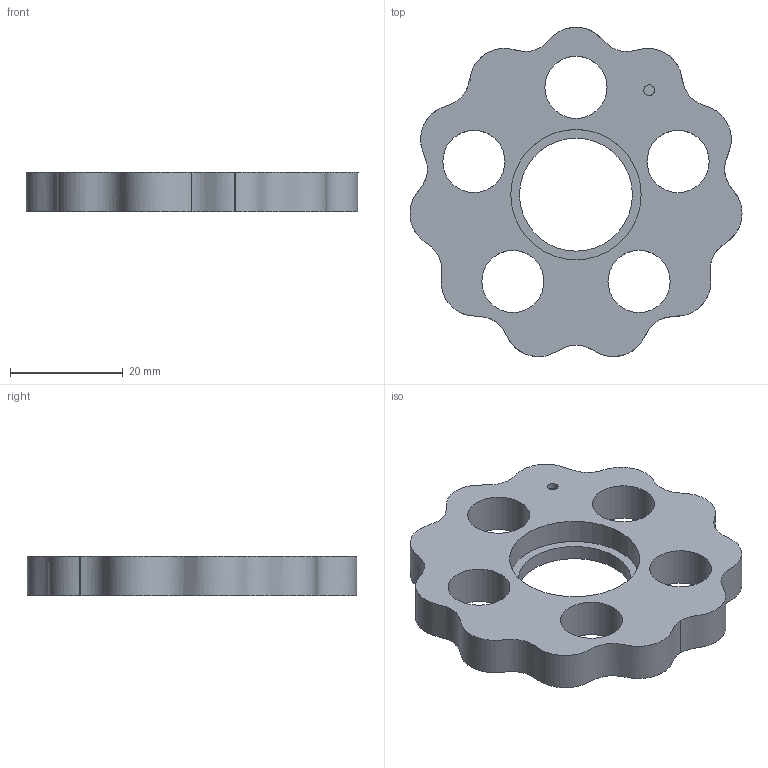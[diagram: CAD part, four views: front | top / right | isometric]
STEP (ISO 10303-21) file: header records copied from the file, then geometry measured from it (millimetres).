
FILE_DESCRIPTION (( 'STEP AP214' ), '1' );
FILE_NAME ('11_1 cyclo disc.STEP', '2020-07-10T19:50:21', ( '' ), ( '' ), 'SwSTEP 2.0', 'SolidWorks 2016', '' );
FILE_SCHEMA (( 'AUTOMOTIVE_DESIGN' ));
Length unit declared in the file: millimetre
Products named in the file (1): 11_1 cyclo disc
Bounding box: 58.77 x 58.3 x 7 mm (x, y, z)
Volume: 12018.1 mm3; surface area: 6486.7 mm2
Topology: 1 solids, 1 shells, 26 faces, 66 edges, 44 vertices
Faces by surface type: cylinder 18, plane 6, bspline 2
Entity records: 1396 total; most frequent: CARTESIAN_POINT 675, DIRECTION 148, ORIENTED_EDGE 132, EDGE_CURVE 66, AXIS2_PLACEMENT_3D 61, EDGE_LOOP 44, VERTEX_POINT 44, CIRCLE 36
